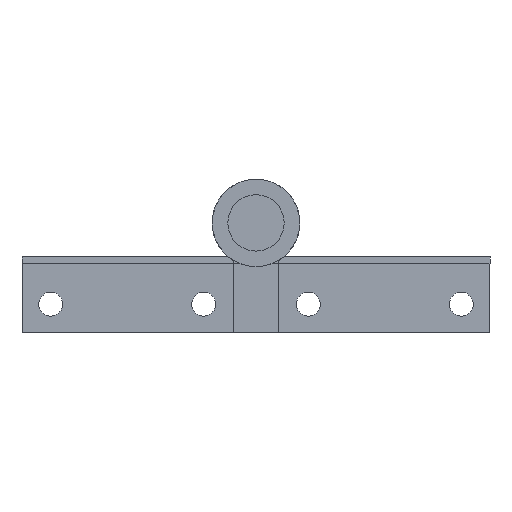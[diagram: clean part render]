
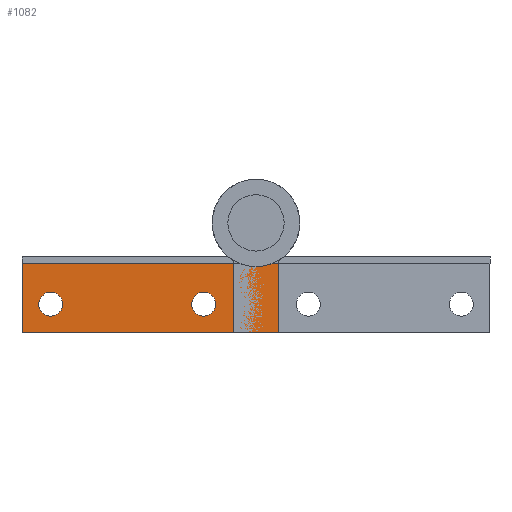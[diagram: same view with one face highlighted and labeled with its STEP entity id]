
A CAD part, front view. The second image highlights one B-rep face of the part: STEP entity #1082.
In plain terms, the highlighted planar face has unit normal (0, -1, 0).
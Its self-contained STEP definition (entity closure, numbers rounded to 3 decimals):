
#110 = PLANE ( 'NONE',  #1571 ) ;
#120 = CARTESIAN_POINT ( 'NONE',  ( 9.15, 383.2, -23. ) ) ;
#121 = DIRECTION ( 'NONE',  ( 0., 1., 0. ) ) ;
#122 = DIRECTION ( 'NONE',  ( 1., 0., 0. ) ) ;
#209 = CARTESIAN_POINT ( 'NONE',  ( 9.15, 383.2, -8.5 ) ) ;
#220 = DIRECTION ( 'NONE',  ( -1., 0., 0. ) ) ;
#404 = CARTESIAN_POINT ( 'NONE',  ( -42.95, 383.2, -17. ) ) ;
#409 = DIRECTION ( 'NONE',  ( 0., 1., 0. ) ) ;
#410 = DIRECTION ( 'NONE',  ( 1., 0., 0. ) ) ;
#424 = CARTESIAN_POINT ( 'NONE',  ( -42.95, 383.2, -17. ) ) ;
#431 = CARTESIAN_POINT ( 'NONE',  ( 4.75, 383.2, -23. ) ) ;
#432 = DIRECTION ( 'NONE',  ( 0., 0., -1. ) ) ;
#434 = DIRECTION ( 'NONE',  ( 0., 1., 0. ) ) ;
#435 = DIRECTION ( 'NONE',  ( 1., 0., 0. ) ) ;
#483 = CARTESIAN_POINT ( 'NONE',  ( -10.95, 383.2, -17. ) ) ;
#493 = DIRECTION ( 'NONE',  ( 0., 1., 0. ) ) ;
#494 = DIRECTION ( 'NONE',  ( 1., 0., 0. ) ) ;
#515 = CARTESIAN_POINT ( 'NONE',  ( 9.15, 383.2, -23. ) ) ;
#516 = DIRECTION ( 'NONE',  ( -1., 0., 0. ) ) ;
#522 = CARTESIAN_POINT ( 'NONE',  ( -48.95, 383.2, -23. ) ) ;
#539 = DIRECTION ( 'NONE',  ( 0., 0., -1. ) ) ;
#560 = CARTESIAN_POINT ( 'NONE',  ( -10.95, 383.2, -17. ) ) ;
#571 = DIRECTION ( 'NONE',  ( 0., 1., 0. ) ) ;
#572 = DIRECTION ( 'NONE',  ( 1., 0., 0. ) ) ;
#602 = EDGE_LOOP ( 'NONE', ( #1969, #1970 ) ) ;
#608 = EDGE_LOOP ( 'NONE', ( #1971, #1972 ) ) ;
#611 = EDGE_LOOP ( 'NONE', ( #1973, #1974, #1975, #1976 ) ) ;
#707 = AXIS2_PLACEMENT_3D ( 'NONE', #404, #409, #410 ) ;
#769 = CARTESIAN_POINT ( 'NONE',  ( -8.45, 383.2, -17. ) ) ;
#770 = CARTESIAN_POINT ( 'NONE',  ( -13.45, 383.2, -17. ) ) ;
#773 = CARTESIAN_POINT ( 'NONE',  ( -40.45, 383.2, -17. ) ) ;
#774 = CARTESIAN_POINT ( 'NONE',  ( -45.45, 383.2, -17. ) ) ;
#802 = CARTESIAN_POINT ( 'NONE',  ( -48.95, 383.2, -8.5 ) ) ;
#803 = CARTESIAN_POINT ( 'NONE',  ( -48.95, 383.2, -23. ) ) ;
#821 = CARTESIAN_POINT ( 'NONE',  ( 4.75, 383.2, -8.5 ) ) ;
#822 = CARTESIAN_POINT ( 'NONE',  ( 4.75, 383.2, -23. ) ) ;
#930 = VERTEX_POINT ( 'NONE', #822 ) ;
#931 = VERTEX_POINT ( 'NONE', #821 ) ;
#949 = VERTEX_POINT ( 'NONE', #803 ) ;
#950 = VERTEX_POINT ( 'NONE', #802 ) ;
#978 = VERTEX_POINT ( 'NONE', #774 ) ;
#979 = VERTEX_POINT ( 'NONE', #773 ) ;
#982 = VERTEX_POINT ( 'NONE', #770 ) ;
#983 = VERTEX_POINT ( 'NONE', #769 ) ;
#1082 = ADVANCED_FACE ( 'NONE', ( #1156, #1160, #1493 ), #110, .F. ) ;
#1107 = AXIS2_PLACEMENT_3D ( 'NONE', #424, #434, #435 ) ;
#1125 = AXIS2_PLACEMENT_3D ( 'NONE', #483, #493, #494 ) ;
#1132 = AXIS2_PLACEMENT_3D ( 'NONE', #560, #571, #572 ) ;
#1156 = FACE_BOUND ( 'NONE', #602, .T. ) ;
#1160 = FACE_BOUND ( 'NONE', #608, .T. ) ;
#1172 = CIRCLE ( 'NONE', #1132, 2.5 ) ;
#1187 = VECTOR ( 'NONE', #539, 1000. ) ;
#1197 = LINE ( 'NONE', #522, #1187 ) ;
#1207 = VECTOR ( 'NONE', #516, 1000. ) ;
#1219 = CIRCLE ( 'NONE', #1125, 2.5 ) ;
#1226 = LINE ( 'NONE', #515, #1207 ) ;
#1258 = CIRCLE ( 'NONE', #1107, 2.5 ) ;
#1266 = VECTOR ( 'NONE', #432, 1000. ) ;
#1267 = LINE ( 'NONE', #431, #1266 ) ;
#1275 = CIRCLE ( 'NONE', #707, 2.5 ) ;
#1428 = VECTOR ( 'NONE', #220, 1000. ) ;
#1430 = LINE ( 'NONE', #209, #1428 ) ;
#1493 = FACE_OUTER_BOUND ( 'NONE', #611, .T. ) ;
#1537 = EDGE_CURVE ( 'NONE', #931, #950, #1430, .T. ) ;
#1571 = AXIS2_PLACEMENT_3D ( 'NONE', #120, #121, #122 ) ;
#1661 = EDGE_CURVE ( 'NONE', #978, #979, #1275, .T. ) ;
#1679 = EDGE_CURVE ( 'NONE', #931, #930, #1267, .T. ) ;
#1680 = EDGE_CURVE ( 'NONE', #979, #978, #1258, .T. ) ;
#1715 = EDGE_CURVE ( 'NONE', #983, #982, #1219, .T. ) ;
#1725 = EDGE_CURVE ( 'NONE', #930, #949, #1226, .T. ) ;
#1745 = EDGE_CURVE ( 'NONE', #950, #949, #1197, .T. ) ;
#1767 = EDGE_CURVE ( 'NONE', #982, #983, #1172, .T. ) ;
#1969 = ORIENTED_EDGE ( 'NONE', *, *, #1767, .T. ) ;
#1970 = ORIENTED_EDGE ( 'NONE', *, *, #1715, .T. ) ;
#1971 = ORIENTED_EDGE ( 'NONE', *, *, #1661, .T. ) ;
#1972 = ORIENTED_EDGE ( 'NONE', *, *, #1680, .T. ) ;
#1973 = ORIENTED_EDGE ( 'NONE', *, *, #1537, .T. ) ;
#1974 = ORIENTED_EDGE ( 'NONE', *, *, #1745, .T. ) ;
#1975 = ORIENTED_EDGE ( 'NONE', *, *, #1725, .F. ) ;
#1976 = ORIENTED_EDGE ( 'NONE', *, *, #1679, .F. ) ;
